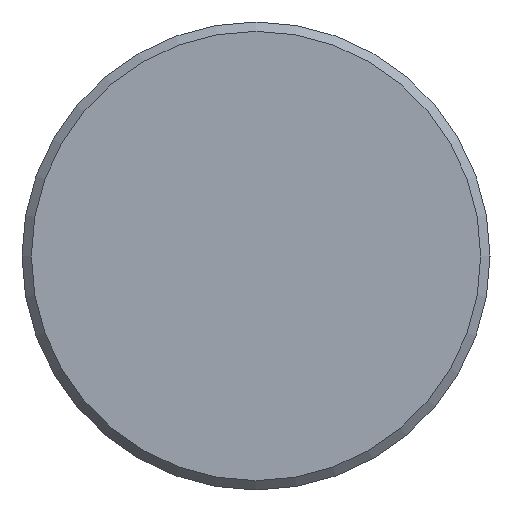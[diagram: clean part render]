
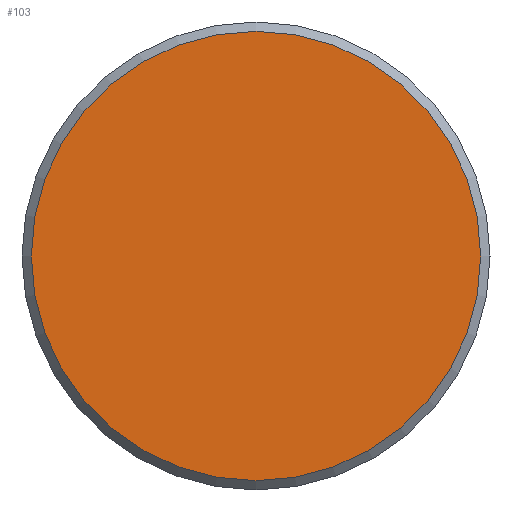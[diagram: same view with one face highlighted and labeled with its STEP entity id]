
A CAD part, left-side view. The second image highlights one B-rep face of the part: STEP entity #103.
In plain terms, the highlighted planar face has unit normal (-1, 0, 0).
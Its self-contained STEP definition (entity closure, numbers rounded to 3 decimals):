
#16=PLANE('',#138);
#30=FACE_OUTER_BOUND('',#36,.T.);
#36=EDGE_LOOP('',(#89));
#45=CIRCLE('',#137,24.);
#53=VERTEX_POINT('',#197);
#65=EDGE_CURVE('',#53,#53,#45,.T.);
#89=ORIENTED_EDGE('',*,*,#65,.F.);
#103=ADVANCED_FACE('',(#30),#16,.F.);
#137=AXIS2_PLACEMENT_3D('',#199,#170,#171);
#138=AXIS2_PLACEMENT_3D('',#200,#172,#173);
#170=DIRECTION('center_axis',(1.,0.,0.));
#171=DIRECTION('ref_axis',(0.,-1.,0.));
#172=DIRECTION('center_axis',(1.,0.,0.));
#173=DIRECTION('ref_axis',(0.,0.,-1.));
#197=CARTESIAN_POINT('',(0.,24.,0.));
#199=CARTESIAN_POINT('Origin',(0.,0.,0.));
#200=CARTESIAN_POINT('Origin',(0.,0.,0.));
